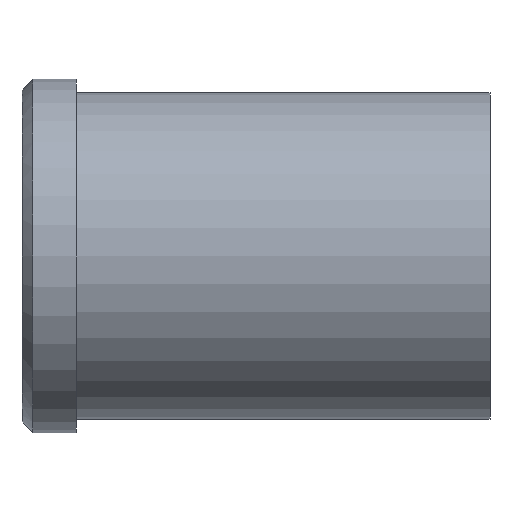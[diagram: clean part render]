
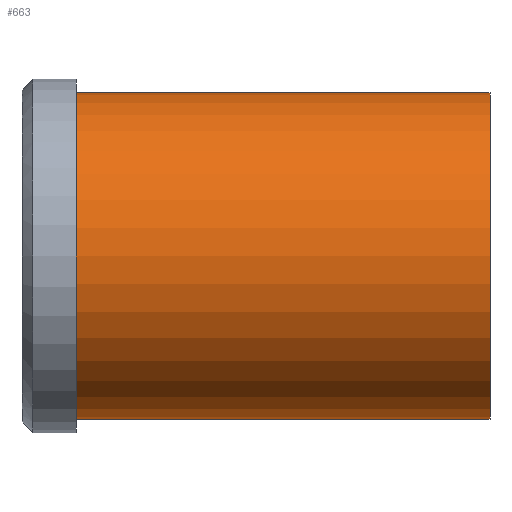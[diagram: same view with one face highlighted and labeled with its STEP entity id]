
A CAD part, front view. The second image highlights one B-rep face of the part: STEP entity #663.
In plain terms, the highlighted cylindrical face has radius 30 mm (diameter 60 mm), a partial arc.
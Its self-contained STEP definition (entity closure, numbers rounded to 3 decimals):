
#501=CARTESIAN_POINT('Vertex',(0.,0.,-30.)) ;
#506=CARTESIAN_POINT('Axis2P3D Location',(0.,0.,0.)) ;
#510=CARTESIAN_POINT('Vertex',(0.,-30.,0.)) ;
#513=CARTESIAN_POINT('Axis2P3D Location',(0.,0.,0.)) ;
#517=CARTESIAN_POINT('Vertex',(0.,0.,30.)) ;
#603=CARTESIAN_POINT('Line Origine',(76.,0.,30.)) ;
#607=CARTESIAN_POINT('Vertex',(76.,0.,30.)) ;
#621=CARTESIAN_POINT('Vertex',(76.,0.,-30.)) ;
#624=CARTESIAN_POINT('Line Origine',(76.,0.,-30.)) ;
#638=CARTESIAN_POINT('Axis2P3D Location',(76.,0.,0.)) ;
#643=CARTESIAN_POINT('Axis2P3D Location',(76.,0.,0.)) ;
#647=CARTESIAN_POINT('Vertex',(76.,-30.,0.)) ;
#650=CARTESIAN_POINT('Axis2P3D Location',(76.,0.,0.)) ;
#507=DIRECTION('Axis2P3D Direction',(1.,0.,-0.)) ;
#514=DIRECTION('Axis2P3D Direction',(1.,0.,-0.)) ;
#604=DIRECTION('Vector Direction',(-1.,0.,0.)) ;
#625=DIRECTION('Vector Direction',(-1.,0.,0.)) ;
#639=DIRECTION('Axis2P3D Direction',(-1.,-0.,-0.)) ;
#640=DIRECTION('Axis2P3D XDirection',(0.,0.,-1.)) ;
#644=DIRECTION('Axis2P3D Direction',(-1.,-0.,-0.)) ;
#651=DIRECTION('Axis2P3D Direction',(-1.,-0.,-0.)) ;
#508=AXIS2_PLACEMENT_3D('Circle Axis2P3D',#506,#507,$) ;
#515=AXIS2_PLACEMENT_3D('Circle Axis2P3D',#513,#514,$) ;
#641=AXIS2_PLACEMENT_3D('Cylinder Axis2P3D',#638,#639,#640) ;
#645=AXIS2_PLACEMENT_3D('Circle Axis2P3D',#643,#644,$) ;
#652=AXIS2_PLACEMENT_3D('Circle Axis2P3D',#650,#651,$) ;
#656=ORIENTED_EDGE('',*,*,#628,.T.) ;
#657=ORIENTED_EDGE('',*,*,#649,.F.) ;
#658=ORIENTED_EDGE('',*,*,#654,.F.) ;
#659=ORIENTED_EDGE('',*,*,#609,.T.) ;
#660=ORIENTED_EDGE('',*,*,#519,.T.) ;
#661=ORIENTED_EDGE('',*,*,#512,.T.) ;
#605=VECTOR('Line Direction',#604,1.) ;
#626=VECTOR('Line Direction',#625,1.) ;
#663=ADVANCED_FACE('353-50X86',(#662),#642,.T.) ;
#509=CIRCLE('generated circle',#508,30.) ;
#516=CIRCLE('generated circle',#515,30.) ;
#646=CIRCLE('generated circle',#645,30.) ;
#653=CIRCLE('generated circle',#652,30.) ;
#642=CYLINDRICAL_SURFACE('generated cylinder',#641,30.) ;
#512=EDGE_CURVE('',#511,#502,#509,.T.) ;
#519=EDGE_CURVE('',#518,#511,#516,.T.) ;
#609=EDGE_CURVE('',#608,#518,#606,.T.) ;
#628=EDGE_CURVE('',#502,#622,#627,.F.) ;
#649=EDGE_CURVE('',#648,#622,#646,.F.) ;
#654=EDGE_CURVE('',#608,#648,#653,.F.) ;
#655=EDGE_LOOP('',(#656,#657,#658,#659,#660,#661)) ;
#662=FACE_OUTER_BOUND('',#655,.T.) ;
#606=LINE('Line',#603,#605) ;
#627=LINE('Line',#624,#626) ;
#502=VERTEX_POINT('',#501) ;
#511=VERTEX_POINT('',#510) ;
#518=VERTEX_POINT('',#517) ;
#608=VERTEX_POINT('',#607) ;
#622=VERTEX_POINT('',#621) ;
#648=VERTEX_POINT('',#647) ;
